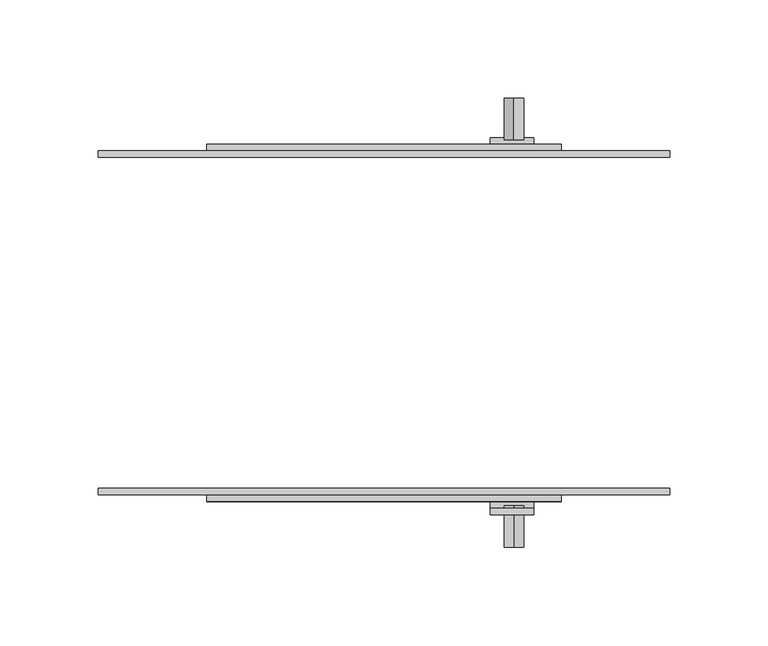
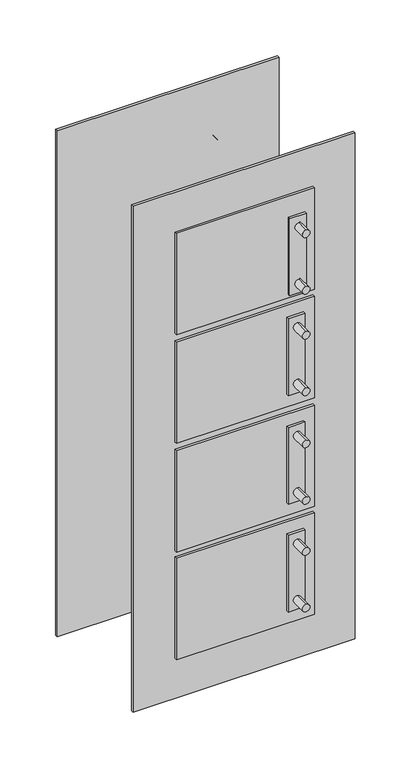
"""IFC4 building model written with IfcOpenShell, lengths in millimetres: proxy geometry, Distribution_Socket_4_rotated : Distribution_Socket_4_rotated."""

from ifc_helpers import new_model, si_unit, point, frame, frame_2d, origin, place, context, project, spatial, polyline, circle_curve, trimmed, segment, composite_curve, outline, extrude, source, transform, mapped, element, save


def electrical_equipment_4af9c3ab(model_context):
    return source(origin(), model_context, "Body", "SweptSolid", [
        extrude(outline(composite_curve([segment(trimmed(circle_curve(frame_2d((38.3010249, 65.938994)), 5.0), [point((43.3010249, 65.938994))], [point((33.3010249, 65.938994))], False, "CARTESIAN"), True, "CONTINUOUS"), segment(trimmed(circle_curve(frame_2d((38.3010249, 65.938994)), 5.0), [point((33.3010249, 65.938994))], [point((43.3010249, 65.938994))], False, "CARTESIAN"), True, "CONTINUOUS")], self_intersect=False)), frame((0.0, 93.0, 0.0), z_axis=(0.0, 1.0, 0.0), x_axis=(0.0, 0.0, 1.0)), (0.0, 0.0, 1.0), 20.9),
        extrude(outline(composite_curve([segment(trimmed(circle_curve(frame_2d((-39.6946618, 65.938994)), 5.0), [point((-34.6946618, 65.938994))], [point((-44.6946618, 65.938994))], False, "CARTESIAN"), True, "CONTINUOUS"), segment(trimmed(circle_curve(frame_2d((-39.6946618, 65.938994)), 5.0), [point((-44.6946618, 65.938994))], [point((-34.6946618, 65.938994))], False, "CARTESIAN"), True, "CONTINUOUS")], self_intersect=False)), frame((0.0, 93.0, 0.0), z_axis=(0.0, 1.0, 0.0), x_axis=(0.0, 0.0, 1.0)), (0.0, 0.0, 1.0), 20.9),
        extrude(outline(composite_curve([segment(trimmed(circle_curve(frame_2d((-110.4592553, 65.938994)), 5.0), [point((-105.4592553, 65.938994))], [point((-115.4592553, 65.938994))], False, "CARTESIAN"), True, "CONTINUOUS"), segment(trimmed(circle_curve(frame_2d((-110.4592553, 65.938994)), 5.0), [point((-115.4592553, 65.938994))], [point((-105.4592553, 65.938994))], False, "CARTESIAN"), True, "CONTINUOUS")], self_intersect=False)), frame((0.0, 93.0, 0.0), z_axis=(0.0, 1.0, 0.0), x_axis=(0.0, 0.0, 1.0)), (0.0, 0.0, 1.0), 20.9),
        extrude(outline(composite_curve([segment(trimmed(circle_curve(frame_2d((-188.454942, 65.938994)), 5.0), [point((-183.454942, 65.938994))], [point((-193.454942, 65.938994))], False, "CARTESIAN"), True, "CONTINUOUS"), segment(trimmed(circle_curve(frame_2d((-188.454942, 65.938994)), 5.0), [point((-193.454942, 65.938994))], [point((-183.454942, 65.938994))], False, "CARTESIAN"), True, "CONTINUOUS")], self_intersect=False)), frame((0.0, 93.0, 0.0), z_axis=(0.0, 1.0, 0.0), x_axis=(0.0, 0.0, 1.0)), (0.0, 0.0, 1.0), 20.9),
        extrude(outline(composite_curve([segment(trimmed(circle_curve(frame_2d((188.301055, 65.938994)), 5.0), [point((193.301055, 65.938994))], [point((183.301055, 65.938994))], False, "CARTESIAN"), True, "CONTINUOUS"), segment(trimmed(circle_curve(frame_2d((188.301055, 65.938994)), 5.0), [point((183.301055, 65.938994))], [point((193.301055, 65.938994))], False, "CARTESIAN"), True, "CONTINUOUS")], self_intersect=False)), frame((0.0, 93.0, 0.0), z_axis=(0.0, 1.0, 0.0), x_axis=(0.0, 0.0, 1.0)), (0.0, 0.0, 1.0), 20.9),
        extrude(outline(composite_curve([segment(trimmed(circle_curve(frame_2d((110.3053683, 65.938994)), 5.0), [point((115.3053683, 65.938994))], [point((105.3053683, 65.938994))], False, "CARTESIAN"), True, "CONTINUOUS"), segment(trimmed(circle_curve(frame_2d((110.3053683, 65.938994)), 5.0), [point((105.3053683, 65.938994))], [point((115.3053683, 65.938994))], False, "CARTESIAN"), True, "CONTINUOUS")], self_intersect=False)), frame((0.0, 93.0, 0.0), z_axis=(0.0, 1.0, 0.0), x_axis=(0.0, 0.0, 1.0)), (0.0, 0.0, 1.0), 20.9),
        extrude(outline(composite_curve([segment(trimmed(circle_curve(frame_2d((328.4414034, 65.938994)), 5.0), [point((333.4414034, 65.938994))], [point((323.4414034, 65.938994))], False, "CARTESIAN"), True, "CONTINUOUS"), segment(trimmed(circle_curve(frame_2d((328.4414034, 65.938994)), 5.0), [point((323.4414034, 65.938994))], [point((333.4414034, 65.938994))], False, "CARTESIAN"), True, "CONTINUOUS")], self_intersect=False)), frame((0.0, 93.0, 0.0), z_axis=(0.0, 1.0, 0.0), x_axis=(0.0, 0.0, 1.0)), (0.0, 0.0, 1.0), 20.9),
        extrude(outline(composite_curve([segment(trimmed(circle_curve(frame_2d((250.4457168, 65.938994)), 5.0), [point((255.4457168, 65.938994))], [point((245.4457168, 65.938994))], False, "CARTESIAN"), True, "CONTINUOUS"), segment(trimmed(circle_curve(frame_2d((250.4457168, 65.938994)), 5.0), [point((245.4457168, 65.938994))], [point((255.4457168, 65.938994))], False, "CARTESIAN"), True, "CONTINUOUS")], self_intersect=False)), frame((0.0, 93.0, 0.0), z_axis=(0.0, 1.0, 0.0), x_axis=(0.0, 0.0, 1.0)), (0.0, 0.0, 1.0), 20.9),
        extrude(outline(composite_curve([segment(trimmed(circle_curve(frame_2d((38.3010249, 65.938994)), 5.0), [point((43.3010249, 65.938994))], [point((33.3010249, 65.938994))], False, "CARTESIAN"), True, "CONTINUOUS"), segment(trimmed(circle_curve(frame_2d((38.3010249, 65.938994)), 5.0), [point((33.3010249, 65.938994))], [point((43.3010249, 65.938994))], False, "CARTESIAN"), True, "CONTINUOUS")], self_intersect=False)), frame((0.0, -113.9, 0.0), z_axis=(0.0, 1.0, 0.0), x_axis=(0.0, 0.0, 1.0)), (0.0, 0.0, 1.0), 20.9),
        extrude(outline(composite_curve([segment(trimmed(circle_curve(frame_2d((-39.6946618, 65.938994)), 5.0), [point((-34.6946618, 65.938994))], [point((-44.6946618, 65.938994))], False, "CARTESIAN"), True, "CONTINUOUS"), segment(trimmed(circle_curve(frame_2d((-39.6946618, 65.938994)), 5.0), [point((-44.6946618, 65.938994))], [point((-34.6946618, 65.938994))], False, "CARTESIAN"), True, "CONTINUOUS")], self_intersect=False)), frame((0.0, -113.9, 0.0), z_axis=(0.0, 1.0, 0.0), x_axis=(0.0, 0.0, 1.0)), (0.0, 0.0, 1.0), 20.9),
        extrude(outline(composite_curve([segment(trimmed(circle_curve(frame_2d((-110.4592553, 65.938994)), 5.0), [point((-105.4592553, 65.938994))], [point((-115.4592553, 65.938994))], False, "CARTESIAN"), True, "CONTINUOUS"), segment(trimmed(circle_curve(frame_2d((-110.4592553, 65.938994)), 5.0), [point((-115.4592553, 65.938994))], [point((-105.4592553, 65.938994))], False, "CARTESIAN"), True, "CONTINUOUS")], self_intersect=False)), frame((0.0, -113.9, 0.0), z_axis=(0.0, 1.0, 0.0), x_axis=(0.0, 0.0, 1.0)), (0.0, 0.0, 1.0), 20.9),
        extrude(outline(composite_curve([segment(trimmed(circle_curve(frame_2d((-188.454942, 65.938994)), 5.0), [point((-183.454942, 65.938994))], [point((-193.454942, 65.938994))], False, "CARTESIAN"), True, "CONTINUOUS"), segment(trimmed(circle_curve(frame_2d((-188.454942, 65.938994)), 5.0), [point((-193.454942, 65.938994))], [point((-183.454942, 65.938994))], False, "CARTESIAN"), True, "CONTINUOUS")], self_intersect=False)), frame((0.0, -113.9, 0.0), z_axis=(0.0, 1.0, 0.0), x_axis=(0.0, 0.0, 1.0)), (0.0, 0.0, 1.0), 20.9),
        extrude(outline(composite_curve([segment(trimmed(circle_curve(frame_2d((328.4414034, 65.938994)), 5.0), [point((333.4414034, 65.938994))], [point((323.4414034, 65.938994))], False, "CARTESIAN"), True, "CONTINUOUS"), segment(trimmed(circle_curve(frame_2d((328.4414034, 65.938994)), 5.0), [point((323.4414034, 65.938994))], [point((333.4414034, 65.938994))], False, "CARTESIAN"), True, "CONTINUOUS")], self_intersect=False)), frame((0.0, -113.9, 0.0), z_axis=(0.0, 1.0, 0.0), x_axis=(0.0, 0.0, 1.0)), (0.0, 0.0, 1.0), 20.9),
        extrude(outline(composite_curve([segment(trimmed(circle_curve(frame_2d((250.4457168, 65.938994)), 5.0), [point((255.4457168, 65.938994))], [point((245.4457168, 65.938994))], False, "CARTESIAN"), True, "CONTINUOUS"), segment(trimmed(circle_curve(frame_2d((250.4457168, 65.938994)), 5.0), [point((245.4457168, 65.938994))], [point((255.4457168, 65.938994))], False, "CARTESIAN"), True, "CONTINUOUS")], self_intersect=False)), frame((0.0, -113.9, 0.0), z_axis=(0.0, 1.0, 0.0), x_axis=(0.0, 0.0, 1.0)), (0.0, 0.0, 1.0), 20.9),
        extrude(outline(composite_curve([segment(trimmed(circle_curve(frame_2d((188.301055, 65.938994)), 5.0), [point((193.301055, 65.938994))], [point((183.301055, 65.938994))], False, "CARTESIAN"), True, "CONTINUOUS"), segment(trimmed(circle_curve(frame_2d((188.301055, 65.938994)), 5.0), [point((183.301055, 65.938994))], [point((193.301055, 65.938994))], False, "CARTESIAN"), True, "CONTINUOUS")], self_intersect=False)), frame((0.0, -113.9, 0.0), z_axis=(0.0, 1.0, 0.0), x_axis=(0.0, 0.0, 1.0)), (0.0, 0.0, 1.0), 20.9),
        extrude(outline(composite_curve([segment(trimmed(circle_curve(frame_2d((110.3053683, 65.938994)), 5.0), [point((115.3053683, 65.938994))], [point((105.3053683, 65.938994))], False, "CARTESIAN"), True, "CONTINUOUS"), segment(trimmed(circle_curve(frame_2d((110.3053683, 65.938994)), 5.0), [point((105.3053683, 65.938994))], [point((115.3053683, 65.938994))], False, "CARTESIAN"), True, "CONTINUOUS")], self_intersect=False)), frame((0.0, -113.9, 0.0), z_axis=(0.0, 1.0, 0.0), x_axis=(0.0, 0.0, 1.0)), (0.0, 0.0, 1.0), 20.9),
        extrude(outline(polyline([(76.0, 94.1115), (76.0, 90.7409978), (54.0, 90.7409978), (54.0, 94.1115), (76.0, 94.1115)])), frame((0.0, 0.0, -53.0000353), z_axis=(0.0, 0.0, 1.0), x_axis=(1.0, 0.0, 0.0)), (0.0, 0.0, 1.0), 106.0000706),
        extrude(outline(polyline([(76.0, -90.7409978), (76.0, -94.1115), (54.0, -94.1115), (54.0, -90.7409978), (76.0, -90.7409978)])), frame((0.0, 0.0, -53.0000353), z_axis=(0.0, 0.0, 1.0), x_axis=(1.0, 0.0, 0.0)), (0.0, 0.0, 1.0), 106.0000706),
        extrude(outline(polyline([(76.0, 90.741), (76.0, 87.3704978), (54.0, 87.3704978), (54.0, 90.741), (76.0, 90.741)])), frame((0.0, 0.0, 237.1403433), z_axis=(0.0, 0.0, 1.0), x_axis=(1.0, 0.0, 0.0)), (0.0, 0.0, 1.0), 106.0000706),
        extrude(outline(polyline([(76.0, -94.1114978), (76.0, -97.482), (54.0, -97.482), (54.0, -94.1114978), (76.0, -94.1114978)])), frame((0.0, 0.0, 237.1403433), z_axis=(0.0, 0.0, 1.0), x_axis=(1.0, 0.0, 0.0)), (0.0, 0.0, 1.0), 106.0000706),
        extrude(outline(polyline([(76.0, 94.1115), (76.0, 90.7409978), (54.0, 90.7409978), (54.0, 94.1115), (76.0, 94.1115)])), frame((0.0, 0.0, 96.9999949), z_axis=(0.0, 0.0, 1.0), x_axis=(1.0, 0.0, 0.0)), (0.0, 0.0, 1.0), 106.0000706),
        extrude(outline(polyline([(76.0, -90.7409978), (76.0, -94.1115), (54.0, -94.1115), (54.0, -90.7409978), (76.0, -90.7409978)])), frame((0.0, 0.0, 96.9999949), z_axis=(0.0, 0.0, 1.0), x_axis=(1.0, 0.0, 0.0)), (0.0, 0.0, 1.0), 106.0000706),
        extrude(outline(polyline([(76.0, 94.1115), (76.0, 90.7409978), (54.0, 90.7409978), (54.0, 94.1115), (76.0, 94.1115)])), frame((0.0, 0.0, -201.7603155), z_axis=(0.0, 0.0, 1.0), x_axis=(1.0, 0.0, 0.0)), (0.0, 0.0, 1.0), 106.0000706),
        extrude(outline(polyline([(76.0, -90.7409978), (76.0, -94.1115), (54.0, -94.1115), (54.0, -90.7409978), (76.0, -90.7409978)])), frame((0.0, 0.0, -201.7603155), z_axis=(0.0, 0.0, 1.0), x_axis=(1.0, 0.0, 0.0)), (0.0, 0.0, 1.0), 106.0000706),
        extrude(outline(polyline([(90.0, 90.7409978), (90.0, 87.3705), (-90.0, 87.3705), (-90.0, 90.7409978), (90.0, 90.7409978)])), frame((0.0, 0.0, -70.61989), z_axis=(0.0, 0.0, 1.0), x_axis=(1.0, 0.0, 0.0)), (0.0, 0.0, 1.0), 140.0000301),
        extrude(outline(polyline([(90.0, -87.3705004), (90.0, -90.7409978), (-90.0, -90.7409978), (-90.0, -87.3705004), (90.0, -87.3705004)])), frame((0.0, 0.0, -70.61989), z_axis=(0.0, 0.0, 1.0), x_axis=(1.0, 0.0, 0.0)), (0.0, 0.0, 1.0), 140.0000301),
        extrude(outline(polyline([(90.0, 90.7409978), (90.0, 87.3705), (-90.0, 87.3705), (-90.0, 90.7409978), (90.0, 90.7409978)])), frame((0.0, 0.0, -219.3801702), z_axis=(0.0, 0.0, 1.0), x_axis=(1.0, 0.0, 0.0)), (0.0, 0.0, 1.0), 140.0000301),
        extrude(outline(polyline([(90.0, -87.3705004), (90.0, -90.7409978), (-90.0, -90.7409978), (-90.0, -87.3705004), (90.0, -87.3705004)])), frame((0.0, 0.0, -219.3801702), z_axis=(0.0, 0.0, 1.0), x_axis=(1.0, 0.0, 0.0)), (0.0, 0.0, 1.0), 140.0000301),
        extrude(outline(polyline([(90.0, 90.7409978), (90.0, 87.3705), (-90.0, 87.3705), (-90.0, 90.7409978), (90.0, 90.7409978)])), frame((0.0, 0.0, 79.3801401), z_axis=(0.0, 0.0, 1.0), x_axis=(1.0, 0.0, 0.0)), (0.0, 0.0, 1.0), 140.0000301),
        extrude(outline(polyline([(90.0, -87.3705004), (90.0, -90.7409978), (-90.0, -90.7409978), (-90.0, -87.3705004), (90.0, -87.3705004)])), frame((0.0, 0.0, 79.3801401), z_axis=(0.0, 0.0, 1.0), x_axis=(1.0, 0.0, 0.0)), (0.0, 0.0, 1.0), 140.0000301),
        extrude(outline(polyline([(90.0, 90.7409978), (90.0, 87.3705), (-90.0, 87.3705), (-90.0, 90.7409978), (90.0, 90.7409978)])), frame((0.0, 0.0, 229.3801702), z_axis=(0.0, 0.0, 1.0), x_axis=(1.0, 0.0, 0.0)), (0.0, 0.0, 1.0), 140.0000301),
        extrude(outline(polyline([(90.0, -87.3705004), (90.0, -90.7409978), (-90.0, -90.7409978), (-90.0, -87.3705004), (90.0, -87.3705004)])), frame((0.0, 0.0, 229.3801702), z_axis=(0.0, 0.0, 1.0), x_axis=(1.0, 0.0, 0.0)), (0.0, 0.0, 1.0), 140.0000301),
        extrude(outline(polyline([(145.0, 87.3705), (145.0, 84.0), (-145.0, 84.0), (-145.0, 87.3705), (145.0, 87.3705)])), frame((0.0, 0.0, -274.3801702), z_axis=(0.0, 0.0, 1.0), x_axis=(1.0, 0.0, 0.0)), (0.0, 0.0, 1.0), 698.7603706),
        extrude(outline(polyline([(145.0, -84.0), (145.0, -87.3705004), (-145.0, -87.3705004), (-145.0, -84.0), (145.0, -84.0)])), frame((0.0, 0.0, -274.3801702), z_axis=(0.0, 0.0, 1.0), x_axis=(1.0, 0.0, 0.0)), (0.0, 0.0, 1.0), 698.7603706),
    ])


if __name__ == "__main__":
    model = new_model("IFC4")
    model_context = context("Model", 3, world=origin())
    ifc_project = project(units=[si_unit("LENGTHUNIT", "METRE", prefix="MILLI")], contexts=[model_context])
    site = spatial("IfcSite", under=ifc_project)
    building = spatial("IfcBuilding", under=site)
    placement = place(None, origin())
    electrical_equipment_shape = electrical_equipment_4af9c3ab(model_context)
    element("IfcBuildingElementProxy", 1, Name="Distribution_Socket_4_rotated : Distribution_Socket_4_rotated", ObjectType="Distribution_Socket_4_rotated : Distribution_Socket_4_rotated", at=placement, inside=building, context=model_context, shape_type="MappedRepresentation", body=[
        mapped(electrical_equipment_shape, transform((0.0, 0.0, 0.0), x_axis=(1.0, 0.0, 0.0), y_axis=(0.0, 1.0, 0.0), z_axis=(0.0, 0.0, 1.0))),
    ])
    save(model, "model.ifc")
